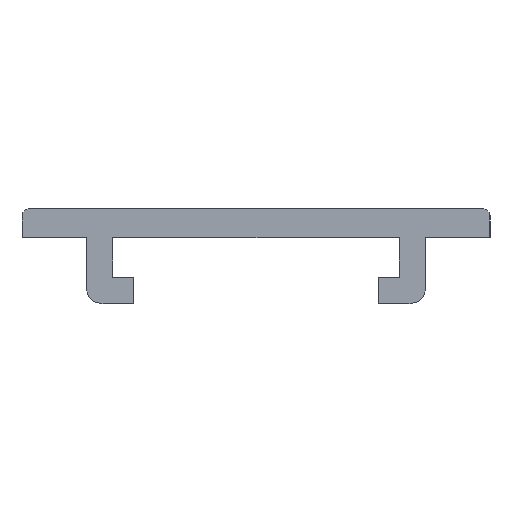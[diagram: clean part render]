
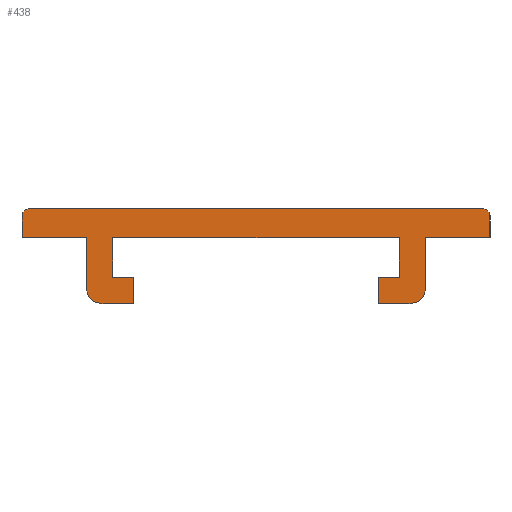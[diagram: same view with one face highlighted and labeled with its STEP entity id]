
A CAD part, left-side view. The second image highlights one B-rep face of the part: STEP entity #438.
In plain terms, the highlighted planar face has unit normal (-1, 0, 0).
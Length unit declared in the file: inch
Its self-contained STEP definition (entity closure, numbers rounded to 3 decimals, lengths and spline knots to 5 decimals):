
#29=DIRECTION('',(0.,0.,1.));
#30=VECTOR('',#29,0.07087);
#31=CARTESIAN_POINT('',(-48.,0.32913,-0.25591));
#32=LINE('',#31,#30);
#33=DIRECTION('',(0.,-1.,0.));
#34=VECTOR('',#33,0.08819);
#35=CARTESIAN_POINT('',(-48.,0.41732,-0.25591));
#36=LINE('',#35,#34);
#37=CARTESIAN_POINT('',(-48.,0.41732,-0.21654));
#38=DIRECTION('',(-1.,0.,0.));
#39=DIRECTION('',(0.,1.,0.));
#40=AXIS2_PLACEMENT_3D('',#37,#38,#39);
#42=DIRECTION('',(0.,0.,-1.));
#43=VECTOR('',#42,0.1378);
#44=CARTESIAN_POINT('',(-48.,0.45669,-0.07874));
#45=LINE('',#44,#43);
#46=DIRECTION('',(0.,-1.,0.));
#47=VECTOR('',#46,0.17323);
#48=CARTESIAN_POINT('',(-48.,0.62992,-0.07874));
#49=LINE('',#48,#47);
#50=DIRECTION('',(0.,0.,-1.));
#51=VECTOR('',#50,0.05906);
#52=CARTESIAN_POINT('',(-48.,0.62992,-0.01969));
#53=LINE('',#52,#51);
#54=CARTESIAN_POINT('',(-48.,0.61024,-0.01969));
#55=DIRECTION('',(-1.,0.,0.));
#56=DIRECTION('',(0.,0.,1.));
#57=AXIS2_PLACEMENT_3D('',#54,#55,#56);
#59=DIRECTION('',(0.,1.,0.));
#60=VECTOR('',#59,1.22047);
#61=CARTESIAN_POINT('',(-48.,-0.61024,0.));
#62=LINE('',#61,#60);
#63=CARTESIAN_POINT('',(-48.,-0.61024,-0.01969));
#64=DIRECTION('',(-1.,0.,0.));
#65=DIRECTION('',(0.,-1.,0.));
#66=AXIS2_PLACEMENT_3D('',#63,#64,#65);
#68=DIRECTION('',(0.,0.,1.));
#69=VECTOR('',#68,0.05906);
#70=CARTESIAN_POINT('',(-48.,-0.62992,-0.07874));
#71=LINE('',#70,#69);
#72=DIRECTION('',(0.,-1.,0.));
#73=VECTOR('',#72,0.17323);
#74=CARTESIAN_POINT('',(-48.,-0.45669,-0.07874));
#75=LINE('',#74,#73);
#76=DIRECTION('',(0.,0.,1.));
#77=VECTOR('',#76,0.1378);
#78=CARTESIAN_POINT('',(-48.,-0.45669,-0.21654));
#79=LINE('',#78,#77);
#80=CARTESIAN_POINT('',(-48.,-0.41732,-0.21654));
#81=DIRECTION('',(-1.,0.,0.));
#82=DIRECTION('',(0.,0.,-1.));
#83=AXIS2_PLACEMENT_3D('',#80,#81,#82);
#85=DIRECTION('',(0.,-1.,0.));
#86=VECTOR('',#85,0.08819);
#87=CARTESIAN_POINT('',(-48.,-0.32913,-0.25591));
#88=LINE('',#87,#86);
#89=DIRECTION('',(0.,0.,-1.));
#90=VECTOR('',#89,0.07087);
#91=CARTESIAN_POINT('',(-48.,-0.32913,-0.18504));
#92=LINE('',#91,#90);
#93=DIRECTION('',(0.,1.,0.));
#94=VECTOR('',#93,0.05669);
#95=CARTESIAN_POINT('',(-48.,-0.38583,-0.18504));
#96=LINE('',#95,#94);
#97=DIRECTION('',(0.,0.,-1.));
#98=VECTOR('',#97,0.1063);
#99=CARTESIAN_POINT('',(-48.,-0.38583,-0.07874));
#100=LINE('',#99,#98);
#101=DIRECTION('',(0.,-1.,0.));
#102=VECTOR('',#101,0.77165);
#103=CARTESIAN_POINT('',(-48.,0.38583,-0.07874));
#104=LINE('',#103,#102);
#105=DIRECTION('',(0.,0.,1.));
#106=VECTOR('',#105,0.1063);
#107=CARTESIAN_POINT('',(-48.,0.38583,-0.18504));
#108=LINE('',#107,#106);
#109=DIRECTION('',(0.,1.,0.));
#110=VECTOR('',#109,0.05669);
#111=CARTESIAN_POINT('',(-48.,0.32913,-0.18504));
#112=LINE('',#111,#110);
#265=CARTESIAN_POINT('',(-48.,0.32913,-0.18504));
#267=VERTEX_POINT('',#265);
#273=CARTESIAN_POINT('',(-48.,0.38583,-0.07874));
#274=CARTESIAN_POINT('',(-48.,-0.38583,-0.07874));
#275=VERTEX_POINT('',#273);
#276=VERTEX_POINT('',#274);
#279=CARTESIAN_POINT('',(-48.,-0.61024,0.));
#280=CARTESIAN_POINT('',(-48.,0.61024,0.));
#281=VERTEX_POINT('',#279);
#282=VERTEX_POINT('',#280);
#289=CARTESIAN_POINT('',(-48.,-0.41732,-0.25591));
#291=VERTEX_POINT('',#289);
#295=CARTESIAN_POINT('',(-48.,0.38583,-0.18504));
#296=VERTEX_POINT('',#295);
#297=CARTESIAN_POINT('',(-48.,-0.32913,-0.25591));
#298=VERTEX_POINT('',#297);
#299=CARTESIAN_POINT('',(-48.,-0.45669,-0.07874));
#300=VERTEX_POINT('',#299);
#301=CARTESIAN_POINT('',(-48.,0.41732,-0.25591));
#302=CARTESIAN_POINT('',(-48.,0.32913,-0.25591));
#303=VERTEX_POINT('',#301);
#304=VERTEX_POINT('',#302);
#305=CARTESIAN_POINT('',(-48.,-0.45669,-0.21654));
#306=VERTEX_POINT('',#305);
#307=CARTESIAN_POINT('',(-48.,0.45669,-0.21654));
#309=VERTEX_POINT('',#307);
#311=CARTESIAN_POINT('',(-48.,-0.62992,-0.07874));
#312=VERTEX_POINT('',#311);
#313=CARTESIAN_POINT('',(-48.,0.45669,-0.07874));
#314=VERTEX_POINT('',#313);
#315=CARTESIAN_POINT('',(-48.,0.62992,-0.01969));
#316=VERTEX_POINT('',#315);
#319=CARTESIAN_POINT('',(-48.,-0.62992,-0.01969));
#320=VERTEX_POINT('',#319);
#321=CARTESIAN_POINT('',(-48.,-0.38583,-0.18504));
#322=VERTEX_POINT('',#321);
#325=CARTESIAN_POINT('',(-48.,-0.32913,-0.18504));
#326=VERTEX_POINT('',#325);
#327=CARTESIAN_POINT('',(-48.,0.62992,-0.07874));
#328=VERTEX_POINT('',#327);
#392=CARTESIAN_POINT('',(-48.,0.41732,-0.21654));
#393=DIRECTION('',(1.,0.,0.));
#394=DIRECTION('',(0.,0.,-1.));
#395=AXIS2_PLACEMENT_3D('',#392,#393,#394);
#396=PLANE('',#395);
#397=ORIENTED_EDGE('',*,*,#382,.F.);
#399=ORIENTED_EDGE('',*,*,#398,.F.);
#401=ORIENTED_EDGE('',*,*,#400,.F.);
#403=ORIENTED_EDGE('',*,*,#402,.F.);
#405=ORIENTED_EDGE('',*,*,#404,.F.);
#407=ORIENTED_EDGE('',*,*,#406,.F.);
#409=ORIENTED_EDGE('',*,*,#408,.F.);
#411=ORIENTED_EDGE('',*,*,#410,.F.);
#413=ORIENTED_EDGE('',*,*,#412,.F.);
#415=ORIENTED_EDGE('',*,*,#414,.F.);
#417=ORIENTED_EDGE('',*,*,#416,.F.);
#419=ORIENTED_EDGE('',*,*,#418,.F.);
#421=ORIENTED_EDGE('',*,*,#420,.F.);
#423=ORIENTED_EDGE('',*,*,#422,.F.);
#425=ORIENTED_EDGE('',*,*,#424,.F.);
#427=ORIENTED_EDGE('',*,*,#426,.F.);
#429=ORIENTED_EDGE('',*,*,#428,.F.);
#431=ORIENTED_EDGE('',*,*,#430,.F.);
#433=ORIENTED_EDGE('',*,*,#432,.F.);
#435=ORIENTED_EDGE('',*,*,#434,.F.);
#436=EDGE_LOOP('',(#397,#399,#401,#403,#405,#407,#409,#411,#413,#415,#417,#419,
#421,#423,#425,#427,#429,#431,#433,#435));
#437=FACE_OUTER_BOUND('',#436,.F.);
#41=CIRCLE('',#40,0.03937);
#58=CIRCLE('',#57,0.01969);
#67=CIRCLE('',#66,0.01969);
#84=CIRCLE('',#83,0.03937);
#382=EDGE_CURVE('',#304,#267,#32,.T.);
#398=EDGE_CURVE('',#303,#304,#36,.T.);
#400=EDGE_CURVE('',#309,#303,#41,.T.);
#402=EDGE_CURVE('',#314,#309,#45,.T.);
#404=EDGE_CURVE('',#328,#314,#49,.T.);
#406=EDGE_CURVE('',#316,#328,#53,.T.);
#408=EDGE_CURVE('',#282,#316,#58,.T.);
#410=EDGE_CURVE('',#281,#282,#62,.T.);
#412=EDGE_CURVE('',#320,#281,#67,.T.);
#414=EDGE_CURVE('',#312,#320,#71,.T.);
#416=EDGE_CURVE('',#300,#312,#75,.T.);
#418=EDGE_CURVE('',#306,#300,#79,.T.);
#420=EDGE_CURVE('',#291,#306,#84,.T.);
#422=EDGE_CURVE('',#298,#291,#88,.T.);
#424=EDGE_CURVE('',#326,#298,#92,.T.);
#426=EDGE_CURVE('',#322,#326,#96,.T.);
#428=EDGE_CURVE('',#276,#322,#100,.T.);
#430=EDGE_CURVE('',#275,#276,#104,.T.);
#432=EDGE_CURVE('',#296,#275,#108,.T.);
#434=EDGE_CURVE('',#267,#296,#112,.T.);
#438=ADVANCED_FACE('',(#437),#396,.F.);
